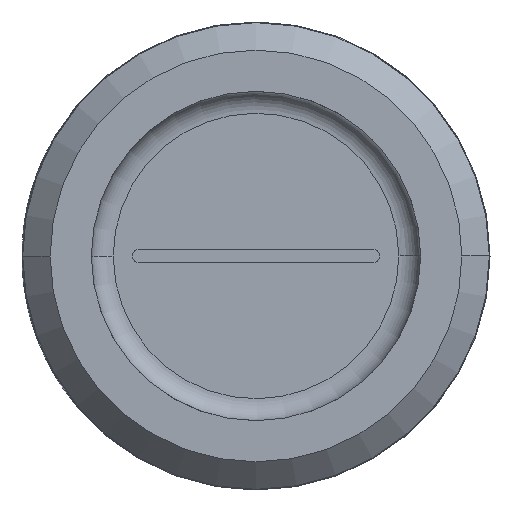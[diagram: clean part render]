
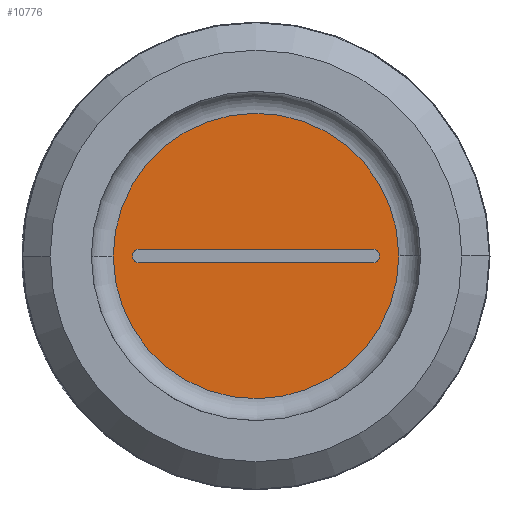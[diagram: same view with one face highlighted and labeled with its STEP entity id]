
A CAD part, front view. The second image highlights one B-rep face of the part: STEP entity #10776.
In plain terms, the highlighted planar face has unit normal (0, -1, 0).
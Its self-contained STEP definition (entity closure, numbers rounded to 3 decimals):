
#5278=CARTESIAN_POINT('',(0.,5.3,0.));
#5279=DIRECTION('',(0.,1.,0.));
#5280=DIRECTION('',(1.,0.,0.));
#5281=AXIS2_PLACEMENT_3D('',#5278,#5279,#5280);
#5286=CARTESIAN_POINT('',(0.,5.3,0.));
#5287=DIRECTION('',(0.,1.,0.));
#5288=DIRECTION('',(-1.,0.,-0.015));
#5289=AXIS2_PLACEMENT_3D('',#5286,#5287,#5288);
#5294=CARTESIAN_POINT('',(0.,5.3,0.));
#5295=DIRECTION('',(0.,1.,0.));
#5296=DIRECTION('',(-1.,0.,0.));
#5297=AXIS2_PLACEMENT_3D('',#5294,#5295,#5296);
#5302=CARTESIAN_POINT('',(0.,5.3,0.));
#5303=DIRECTION('',(0.,1.,0.));
#5304=DIRECTION('',(1.,0.,0.015));
#5305=AXIS2_PLACEMENT_3D('',#5302,#5303,#5304);
#5310=CARTESIAN_POINT('',(-4.25,5.3,0.));
#5311=DIRECTION('',(0.,-1.,0.));
#5312=DIRECTION('',(0.,0.,1.));
#5313=AXIS2_PLACEMENT_3D('',#5310,#5311,#5312);
#5318=CARTESIAN_POINT('',(-4.25,5.3,0.));
#5319=DIRECTION('',(0.,-1.,0.));
#5320=DIRECTION('',(-1.,0.,0.));
#5321=AXIS2_PLACEMENT_3D('',#5318,#5319,#5320);
#5326=CARTESIAN_POINT('',(4.25,5.3,0.));
#5327=DIRECTION('',(0.,-1.,0.));
#5328=DIRECTION('',(0.,0.,-1.));
#5329=AXIS2_PLACEMENT_3D('',#5326,#5327,#5328);
#5334=CARTESIAN_POINT('',(4.25,5.3,0.));
#5335=DIRECTION('',(0.,-1.,0.));
#5336=DIRECTION('',(1.,0.,0.));
#5337=AXIS2_PLACEMENT_3D('',#5334,#5335,#5336);
#7456=DIRECTION('',(1.,0.,0.));
#7457=VECTOR('',#7456,8.5);
#7458=CARTESIAN_POINT('',(-4.25,5.3,0.25));
#7459=LINE('',#7458,#7457);
#7477=DIRECTION('',(-1.,0.,0.));
#7478=VECTOR('',#7477,8.5);
#7479=CARTESIAN_POINT('',(4.25,5.3,-0.25));
#7480=LINE('',#7479,#7478);
#8918=CARTESIAN_POINT('',(5.199,5.3,0.079));
#8919=CARTESIAN_POINT('',(5.2,5.3,0.));
#8920=VERTEX_POINT('',#8918);
#8921=VERTEX_POINT('',#8919);
#8922=CARTESIAN_POINT('',(-5.2,5.3,0.));
#8923=VERTEX_POINT('',#8922);
#8924=CARTESIAN_POINT('',(-5.199,5.3,-0.079));
#8925=VERTEX_POINT('',#8924);
#8926=CARTESIAN_POINT('',(-4.25,5.3,0.25));
#8927=CARTESIAN_POINT('',(-4.5,5.3,0.));
#8928=VERTEX_POINT('',#8926);
#8929=VERTEX_POINT('',#8927);
#8930=CARTESIAN_POINT('',(-4.25,5.3,-0.25));
#8931=VERTEX_POINT('',#8930);
#8932=CARTESIAN_POINT('',(4.25,5.3,-0.25));
#8933=VERTEX_POINT('',#8932);
#8934=CARTESIAN_POINT('',(4.5,5.3,0.));
#8935=VERTEX_POINT('',#8934);
#8936=CARTESIAN_POINT('',(4.25,5.3,0.25));
#8937=VERTEX_POINT('',#8936);
#10749=CARTESIAN_POINT('',(0.,5.3,0.));
#10750=DIRECTION('',(0.,-1.,0.));
#10751=DIRECTION('',(1.,0.,0.));
#10752=AXIS2_PLACEMENT_3D('',#10749,#10750,#10751);
#10753=PLANE('',#10752);
#10755=ORIENTED_EDGE('',*,*,#10754,.T.);
#10757=ORIENTED_EDGE('',*,*,#10756,.T.);
#10758=ORIENTED_EDGE('',*,*,#10738,.T.);
#10759=ORIENTED_EDGE('',*,*,#10736,.T.);
#10760=EDGE_LOOP('',(#10755,#10757,#10758,#10759));
#10761=FACE_OUTER_BOUND('',#10760,.F.);
#10763=ORIENTED_EDGE('',*,*,#10762,.T.);
#10765=ORIENTED_EDGE('',*,*,#10764,.T.);
#10767=ORIENTED_EDGE('',*,*,#10766,.F.);
#10769=ORIENTED_EDGE('',*,*,#10768,.T.);
#10771=ORIENTED_EDGE('',*,*,#10770,.T.);
#10773=ORIENTED_EDGE('',*,*,#10772,.F.);
#10774=EDGE_LOOP('',(#10763,#10765,#10767,#10769,#10771,#10773));
#10775=FACE_BOUND('',#10774,.F.);
#5282=CIRCLE('',#5281,5.2);
#5290=CIRCLE('',#5289,5.2);
#5298=CIRCLE('',#5297,5.2);
#5306=CIRCLE('',#5305,5.2);
#5314=CIRCLE('',#5313,0.25);
#5322=CIRCLE('',#5321,0.25);
#5330=CIRCLE('',#5329,0.25);
#5338=CIRCLE('',#5337,0.25);
#10736=EDGE_CURVE('',#8920,#8921,#5306,.T.);
#10738=EDGE_CURVE('',#8923,#8920,#5298,.T.);
#10754=EDGE_CURVE('',#8921,#8925,#5282,.T.);
#10756=EDGE_CURVE('',#8925,#8923,#5290,.T.);
#10762=EDGE_CURVE('',#8928,#8929,#5314,.T.);
#10764=EDGE_CURVE('',#8929,#8931,#5322,.T.);
#10766=EDGE_CURVE('',#8933,#8931,#7480,.T.);
#10768=EDGE_CURVE('',#8933,#8935,#5330,.T.);
#10770=EDGE_CURVE('',#8935,#8937,#5338,.T.);
#10772=EDGE_CURVE('',#8928,#8937,#7459,.T.);
#10776=ADVANCED_FACE('',(#10761,#10775),#10753,.T.);
